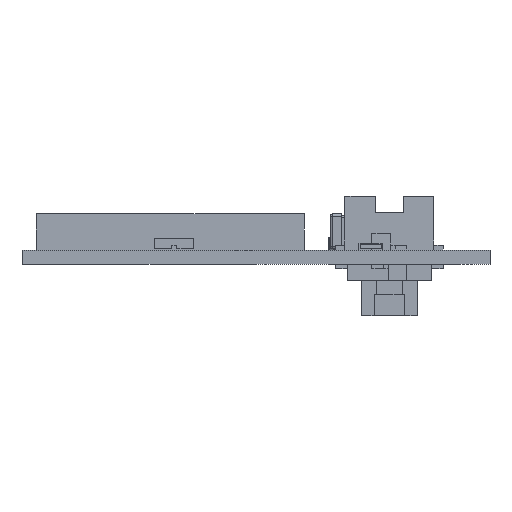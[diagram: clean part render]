
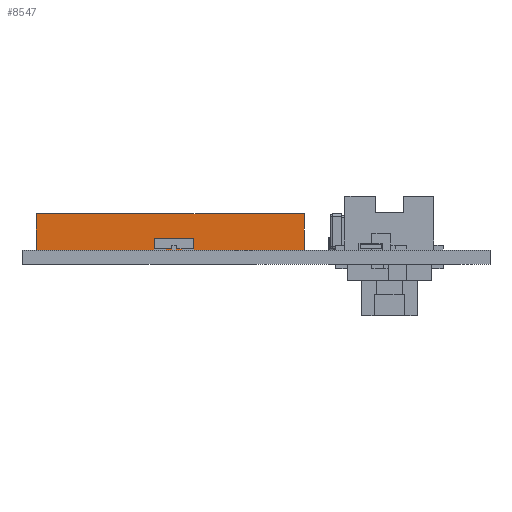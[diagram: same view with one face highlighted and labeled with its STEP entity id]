
A CAD part, left-side view. The second image highlights one B-rep face of the part: STEP entity #8547.
In plain terms, the highlighted planar face has unit normal (-1, 0, 0).
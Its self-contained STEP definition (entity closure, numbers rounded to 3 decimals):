
#8366 = PLANE('',#8367);
#8367 = AXIS2_PLACEMENT_3D('',#8368,#8369,#8370);
#8368 = CARTESIAN_POINT('',(26.219,17.932,0.6));
#8369 = DIRECTION('',(0.,-1.,0.));
#8370 = DIRECTION('',(-1.,0.,0.));
#8391 = VERTEX_POINT('',#8392);
#8392 = CARTESIAN_POINT('',(14.269,17.932,2.15));
#8406 = PLANE('',#8407);
#8407 = AXIS2_PLACEMENT_3D('',#8408,#8409,#8410);
#8408 = CARTESIAN_POINT('',(20.257,23.56,2.15));
#8409 = DIRECTION('',(0.,0.,1.));
#8410 = DIRECTION('',(-1.,0.,0.));
#8418 = EDGE_CURVE('',#8419,#8391,#8421,.T.);
#8419 = VERTEX_POINT('',#8420);
#8420 = CARTESIAN_POINT('',(14.269,17.932,0.6));
#8421 = SURFACE_CURVE('',#8422,(#8426,#8433),.PCURVE_S1.);
#8422 = LINE('',#8423,#8424);
#8423 = CARTESIAN_POINT('',(14.269,17.932,0.6));
#8424 = VECTOR('',#8425,1.);
#8425 = DIRECTION('',(0.,0.,1.));
#8426 = PCURVE('',#8366,#8427);
#8427 = DEFINITIONAL_REPRESENTATION('',(#8428),#8432);
#8428 = LINE('',#8429,#8430);
#8429 = CARTESIAN_POINT('',(11.95,0.));
#8430 = VECTOR('',#8431,1.);
#8431 = DIRECTION('',(0.,-1.));
#8432 = ( GEOMETRIC_REPRESENTATION_CONTEXT(2) 
PARAMETRIC_REPRESENTATION_CONTEXT() REPRESENTATION_CONTEXT('2D SPACE',''
  ) );
#8433 = PCURVE('',#8434,#8439);
#8434 = PLANE('',#8435);
#8435 = AXIS2_PLACEMENT_3D('',#8436,#8437,#8438);
#8436 = CARTESIAN_POINT('',(14.269,17.932,0.6));
#8437 = DIRECTION('',(-1.,0.,0.));
#8438 = DIRECTION('',(0.,1.,0.));
#8439 = DEFINITIONAL_REPRESENTATION('',(#8440),#8444);
#8440 = LINE('',#8441,#8442);
#8441 = CARTESIAN_POINT('',(0.,0.));
#8442 = VECTOR('',#8443,1.);
#8443 = DIRECTION('',(0.,-1.));
#8444 = ( GEOMETRIC_REPRESENTATION_CONTEXT(2) 
PARAMETRIC_REPRESENTATION_CONTEXT() REPRESENTATION_CONTEXT('2D SPACE',''
  ) );
#8460 = PLANE('',#8461);
#8461 = AXIS2_PLACEMENT_3D('',#8462,#8463,#8464);
#8462 = CARTESIAN_POINT('',(20.244,23.657,0.6));
#8463 = DIRECTION('',(0.,0.,-1.));
#8464 = DIRECTION('',(1.,0.,0.));
#8547 = ADVANCED_FACE('',(#8548),#8434,.T.);
#8548 = FACE_BOUND('',#8549,.T.);
#8549 = EDGE_LOOP('',(#8550,#8551,#8574,#8602));
#8550 = ORIENTED_EDGE('',*,*,#8418,.T.);
#8551 = ORIENTED_EDGE('',*,*,#8552,.T.);
#8552 = EDGE_CURVE('',#8391,#8553,#8555,.T.);
#8553 = VERTEX_POINT('',#8554);
#8554 = CARTESIAN_POINT('',(14.269,29.382,2.15));
#8555 = SURFACE_CURVE('',#8556,(#8560,#8567),.PCURVE_S1.);
#8556 = LINE('',#8557,#8558);
#8557 = CARTESIAN_POINT('',(14.269,17.932,2.15));
#8558 = VECTOR('',#8559,1.);
#8559 = DIRECTION('',(0.,1.,0.));
#8560 = PCURVE('',#8434,#8561);
#8561 = DEFINITIONAL_REPRESENTATION('',(#8562),#8566);
#8562 = LINE('',#8563,#8564);
#8563 = CARTESIAN_POINT('',(0.,-1.55));
#8564 = VECTOR('',#8565,1.);
#8565 = DIRECTION('',(1.,0.));
#8566 = ( GEOMETRIC_REPRESENTATION_CONTEXT(2) 
PARAMETRIC_REPRESENTATION_CONTEXT() REPRESENTATION_CONTEXT('2D SPACE',''
  ) );
#8567 = PCURVE('',#8406,#8568);
#8568 = DEFINITIONAL_REPRESENTATION('',(#8569),#8573);
#8569 = LINE('',#8570,#8571);
#8570 = CARTESIAN_POINT('',(5.988,5.628));
#8571 = VECTOR('',#8572,1.);
#8572 = DIRECTION('',(0.,-1.));
#8573 = ( GEOMETRIC_REPRESENTATION_CONTEXT(2) 
PARAMETRIC_REPRESENTATION_CONTEXT() REPRESENTATION_CONTEXT('2D SPACE',''
  ) );
#8574 = ORIENTED_EDGE('',*,*,#8575,.F.);
#8575 = EDGE_CURVE('',#8576,#8553,#8578,.T.);
#8576 = VERTEX_POINT('',#8577);
#8577 = CARTESIAN_POINT('',(14.269,29.382,0.6));
#8578 = SURFACE_CURVE('',#8579,(#8583,#8590),.PCURVE_S1.);
#8579 = LINE('',#8580,#8581);
#8580 = CARTESIAN_POINT('',(14.269,29.382,0.6));
#8581 = VECTOR('',#8582,1.);
#8582 = DIRECTION('',(0.,0.,1.));
#8583 = PCURVE('',#8434,#8584);
#8584 = DEFINITIONAL_REPRESENTATION('',(#8585),#8589);
#8585 = LINE('',#8586,#8587);
#8586 = CARTESIAN_POINT('',(11.45,0.));
#8587 = VECTOR('',#8588,1.);
#8588 = DIRECTION('',(0.,-1.));
#8589 = ( GEOMETRIC_REPRESENTATION_CONTEXT(2) 
PARAMETRIC_REPRESENTATION_CONTEXT() REPRESENTATION_CONTEXT('2D SPACE',''
  ) );
#8590 = PCURVE('',#8591,#8596);
#8591 = PLANE('',#8592);
#8592 = AXIS2_PLACEMENT_3D('',#8593,#8594,#8595);
#8593 = CARTESIAN_POINT('',(14.269,29.382,0.6));
#8594 = DIRECTION('',(0.,1.,0.));
#8595 = DIRECTION('',(1.,0.,0.));
#8596 = DEFINITIONAL_REPRESENTATION('',(#8597),#8601);
#8597 = LINE('',#8598,#8599);
#8598 = CARTESIAN_POINT('',(0.,0.));
#8599 = VECTOR('',#8600,1.);
#8600 = DIRECTION('',(0.,-1.));
#8601 = ( GEOMETRIC_REPRESENTATION_CONTEXT(2) 
PARAMETRIC_REPRESENTATION_CONTEXT() REPRESENTATION_CONTEXT('2D SPACE',''
  ) );
#8602 = ORIENTED_EDGE('',*,*,#8603,.F.);
#8603 = EDGE_CURVE('',#8419,#8576,#8604,.T.);
#8604 = SURFACE_CURVE('',#8605,(#8609,#8616),.PCURVE_S1.);
#8605 = LINE('',#8606,#8607);
#8606 = CARTESIAN_POINT('',(14.269,17.932,0.6));
#8607 = VECTOR('',#8608,1.);
#8608 = DIRECTION('',(0.,1.,0.));
#8609 = PCURVE('',#8434,#8610);
#8610 = DEFINITIONAL_REPRESENTATION('',(#8611),#8615);
#8611 = LINE('',#8612,#8613);
#8612 = CARTESIAN_POINT('',(0.,0.));
#8613 = VECTOR('',#8614,1.);
#8614 = DIRECTION('',(1.,0.));
#8615 = ( GEOMETRIC_REPRESENTATION_CONTEXT(2) 
PARAMETRIC_REPRESENTATION_CONTEXT() REPRESENTATION_CONTEXT('2D SPACE',''
  ) );
#8616 = PCURVE('',#8460,#8617);
#8617 = DEFINITIONAL_REPRESENTATION('',(#8618),#8622);
#8618 = LINE('',#8619,#8620);
#8619 = CARTESIAN_POINT('',(-5.975,5.725));
#8620 = VECTOR('',#8621,1.);
#8621 = DIRECTION('',(0.,-1.));
#8622 = ( GEOMETRIC_REPRESENTATION_CONTEXT(2) 
PARAMETRIC_REPRESENTATION_CONTEXT() REPRESENTATION_CONTEXT('2D SPACE',''
  ) );
